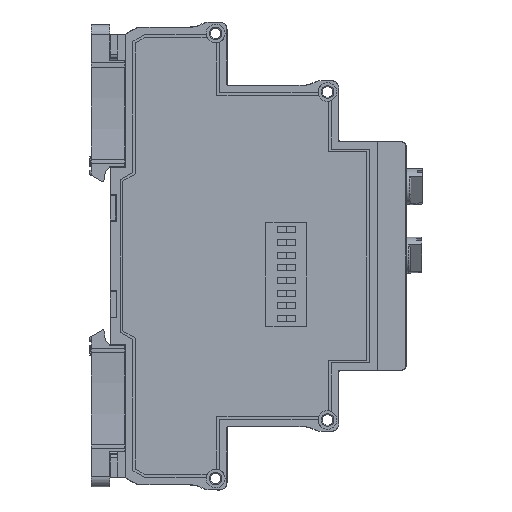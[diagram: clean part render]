
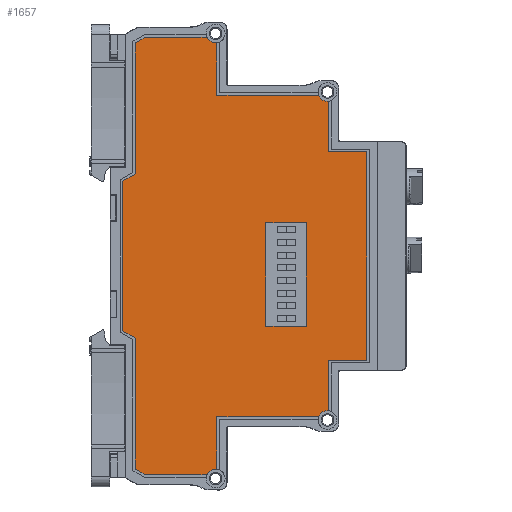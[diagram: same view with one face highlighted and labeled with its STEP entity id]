
A CAD part, front view. The second image highlights one B-rep face of the part: STEP entity #1657.
In plain terms, the highlighted planar face has unit normal (0, -1, 0) as drawn and (1, 0, 0) by its records, which use the part's own axes.
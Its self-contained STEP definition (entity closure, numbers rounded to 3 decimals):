
#1657=ADVANCED_FACE('',(#39468,#39470),#39472,.T.);
#39468=FACE_BOUND('',#39469,.T.);
#39469=EDGE_LOOP('',(#69655,#69656,#69657,#69658,#69659,#69660,#69661,#69662,#69663,
#69664,#69665,#69666,#69667,#69668,#69669,#69670,#69671,#69672,#69673,#69674,#69675,
#69676));
#39470=FACE_BOUND('',#39471,.T.);
#39471=EDGE_LOOP('',(#69677,#69678,#69679,#69680));
#39472=PLANE('',#39473);
#39473=AXIS2_PLACEMENT_3D('',#39474,#39475,#39476);
#39474=CARTESIAN_POINT('',(6.5,0.,0.));
#39475=DIRECTION('',(1.,0.,0.));
#39476=DIRECTION('',(0.,0.,-1.));
#69655=ORIENTED_EDGE('',*,*,#95039,.F.);
#69656=ORIENTED_EDGE('',*,*,#95040,.T.);
#69657=ORIENTED_EDGE('',*,*,#94957,.F.);
#69658=ORIENTED_EDGE('',*,*,#95041,.T.);
#69659=ORIENTED_EDGE('',*,*,#95042,.T.);
#69660=ORIENTED_EDGE('',*,*,#95043,.T.);
#69661=ORIENTED_EDGE('',*,*,#95044,.T.);
#69662=ORIENTED_EDGE('',*,*,#95045,.T.);
#69663=ORIENTED_EDGE('',*,*,#94941,.F.);
#69664=ORIENTED_EDGE('',*,*,#95046,.F.);
#69665=ORIENTED_EDGE('',*,*,#95047,.T.);
#69666=ORIENTED_EDGE('',*,*,#94951,.F.);
#69667=ORIENTED_EDGE('',*,*,#95048,.T.);
#69668=ORIENTED_EDGE('',*,*,#95049,.F.);
#69669=ORIENTED_EDGE('',*,*,#95050,.T.);
#69670=ORIENTED_EDGE('',*,*,#95051,.T.);
#69671=ORIENTED_EDGE('',*,*,#95052,.T.);
#69672=ORIENTED_EDGE('',*,*,#95053,.T.);
#69673=ORIENTED_EDGE('',*,*,#95054,.T.);
#69674=ORIENTED_EDGE('',*,*,#95055,.F.);
#69675=ORIENTED_EDGE('',*,*,#95056,.T.);
#69676=ORIENTED_EDGE('',*,*,#94967,.F.);
#69677=ORIENTED_EDGE('',*,*,#95057,.T.);
#69678=ORIENTED_EDGE('',*,*,#95058,.T.);
#69679=ORIENTED_EDGE('',*,*,#95059,.F.);
#69680=ORIENTED_EDGE('',*,*,#95060,.F.);
#94941=EDGE_CURVE('',#106868,#106853,#106870,.T.);
#94951=EDGE_CURVE('',#106888,#106873,#106890,.T.);
#94957=EDGE_CURVE('',#106900,#106902,#106903,.T.);
#94967=EDGE_CURVE('',#106920,#106922,#106923,.T.);
#95039=EDGE_CURVE('',#107061,#106920,#107062,.T.);
#95040=EDGE_CURVE('',#107061,#106902,#107063,.T.);
#95041=EDGE_CURVE('',#106900,#107064,#107065,.T.);
#95042=EDGE_CURVE('',#107064,#107066,#107067,.T.);
#95043=EDGE_CURVE('',#107066,#107068,#107069,.T.);
#95044=EDGE_CURVE('',#107068,#107070,#107071,.T.);
#95045=EDGE_CURVE('',#107070,#106853,#107072,.T.);
#95046=EDGE_CURVE('',#107073,#106868,#107074,.T.);
#95047=EDGE_CURVE('',#107073,#106873,#107075,.T.);
#95048=EDGE_CURVE('',#106888,#107076,#107077,.T.);
#95049=EDGE_CURVE('',#107078,#107076,#107079,.T.);
#95050=EDGE_CURVE('',#107078,#107080,#107081,.T.);
#95051=EDGE_CURVE('',#107080,#107082,#107083,.T.);
#95052=EDGE_CURVE('',#107082,#107084,#107085,.T.);
#95053=EDGE_CURVE('',#107084,#107086,#107087,.T.);
#95054=EDGE_CURVE('',#107086,#107088,#107089,.T.);
#95055=EDGE_CURVE('',#107090,#107088,#107091,.T.);
#95056=EDGE_CURVE('',#107090,#106922,#107092,.T.);
#95057=EDGE_CURVE('',#107093,#107094,#107095,.T.);
#95058=EDGE_CURVE('',#107094,#107096,#107097,.T.);
#95059=EDGE_CURVE('',#107098,#107096,#107099,.T.);
#95060=EDGE_CURVE('',#107093,#107098,#107100,.T.);
#106853=VERTEX_POINT('',#127256);
#106868=VERTEX_POINT('',#127289);
#106870=CIRCLE('',#127293,1.85);
#106873=VERTEX_POINT('',#127302);
#106888=VERTEX_POINT('',#127335);
#106890=CIRCLE('',#127339,1.85);
#106900=VERTEX_POINT('',#127363);
#106902=VERTEX_POINT('',#127367);
#106903=CIRCLE('',#127368,1.85);
#106920=VERTEX_POINT('',#127409);
#106922=VERTEX_POINT('',#127413);
#106923=CIRCLE('',#127414,1.85);
#107061=VERTEX_POINT('',#127718);
#107062=LINE('',#127719,#127720);
#107063=LINE('',#127722,#127723);
#107064=VERTEX_POINT('',#127725);
#107065=LINE('',#127726,#127727);
#107066=VERTEX_POINT('',#127729);
#107067=LINE('',#127730,#127731);
#107068=VERTEX_POINT('',#127733);
#107069=LINE('',#127734,#127735);
#107070=VERTEX_POINT('',#127737);
#107071=LINE('',#127738,#127739);
#107072=LINE('',#127741,#127742);
#107073=VERTEX_POINT('',#127744);
#107074=LINE('',#127745,#127746);
#107075=LINE('',#127748,#127749);
#107076=VERTEX_POINT('',#127751);
#107077=LINE('',#127752,#127753);
#107078=VERTEX_POINT('',#127755);
#107079=LINE('',#127756,#127757);
#107080=VERTEX_POINT('',#127759);
#107081=LINE('',#127760,#127761);
#107082=VERTEX_POINT('',#127763);
#107083=LINE('',#127764,#127765);
#107084=VERTEX_POINT('',#127767);
#107085=LINE('',#127768,#127769);
#107086=VERTEX_POINT('',#127771);
#107087=LINE('',#127772,#127773);
#107088=VERTEX_POINT('',#127775);
#107089=LINE('',#127776,#127777);
#107090=VERTEX_POINT('',#127779);
#107091=LINE('',#127780,#127781);
#107092=LINE('',#127783,#127784);
#107093=VERTEX_POINT('',#127786);
#107094=VERTEX_POINT('',#127787);
#107095=LINE('',#127788,#127789);
#107096=VERTEX_POINT('',#127791);
#107097=LINE('',#127792,#127793);
#107098=VERTEX_POINT('',#127795);
#107099=LINE('',#127796,#127797);
#107100=LINE('',#127799,#127800);
#127256=CARTESIAN_POINT('',(6.5,-30.541,38.985));
#127289=CARTESIAN_POINT('',(6.5,-31.7,37.015));
#127293=AXIS2_PLACEMENT_3D('',#127294,#127295,#127296);
#127294=CARTESIAN_POINT('',(6.5,-32.375,38.738));
#127295=DIRECTION('',(1.,0.,0.));
#127296=DIRECTION('',(0.,0.365,-0.931));
#127302=CARTESIAN_POINT('',(6.5,-42.103,16.897));
#127335=CARTESIAN_POINT('',(6.5,-43.2,14.953));
#127339=AXIS2_PLACEMENT_3D('',#127340,#127341,#127342);
#127340=CARTESIAN_POINT('',(6.5,-43.937,16.65));
#127341=DIRECTION('',(1.,0.,0.));
#127342=DIRECTION('',(0.,0.398,-0.917));
#127363=CARTESIAN_POINT('',(6.5,30.541,38.985));
#127367=CARTESIAN_POINT('',(6.5,31.7,37.015));
#127368=AXIS2_PLACEMENT_3D('',#127369,#127370,#127371);
#127369=CARTESIAN_POINT('',(6.5,32.375,38.738));
#127370=DIRECTION('',(1.,0.,0.));
#127371=DIRECTION('',(0.,-0.991,0.134));
#127409=CARTESIAN_POINT('',(6.5,42.103,16.897));
#127413=CARTESIAN_POINT('',(6.5,43.2,14.953));
#127414=AXIS2_PLACEMENT_3D('',#127415,#127416,#127417);
#127415=CARTESIAN_POINT('',(6.5,43.937,16.65));
#127416=DIRECTION('',(1.,0.,0.));
#127417=DIRECTION('',(0.,-0.991,0.134));
#127718=CARTESIAN_POINT('',(6.5,31.7,16.897));
#127719=CARTESIAN_POINT('',(6.5,31.7,16.897));
#127720=VECTOR('',#127721,1.);
#127721=DIRECTION('',(0.,1.,0.));
#127722=CARTESIAN_POINT('',(6.5,31.7,16.897));
#127723=VECTOR('',#127724,1.);
#127724=DIRECTION('',(0.,0.,1.));
#127725=CARTESIAN_POINT('',(6.5,20.6,38.985));
#127726=CARTESIAN_POINT('',(6.5,30.541,38.985));
#127727=VECTOR('',#127728,1.);
#127728=DIRECTION('',(0.,-1.,0.));
#127729=CARTESIAN_POINT('',(6.5,20.6,46.53));
#127730=CARTESIAN_POINT('',(6.5,20.6,38.985));
#127731=VECTOR('',#127732,1.);
#127732=DIRECTION('',(0.,0.,1.));
#127733=CARTESIAN_POINT('',(6.5,-20.6,46.53));
#127734=CARTESIAN_POINT('',(6.5,20.6,46.53));
#127735=VECTOR('',#127736,1.);
#127736=DIRECTION('',(0.,-1.,0.));
#127737=CARTESIAN_POINT('',(6.5,-20.6,38.985));
#127738=CARTESIAN_POINT('',(6.5,-20.6,46.53));
#127739=VECTOR('',#127740,1.);
#127740=DIRECTION('',(0.,0.,-1.));
#127741=CARTESIAN_POINT('',(6.5,-20.6,38.985));
#127742=VECTOR('',#127743,1.);
#127743=DIRECTION('',(0.,-1.,0.));
#127744=CARTESIAN_POINT('',(6.5,-31.7,16.897));
#127745=CARTESIAN_POINT('',(6.5,-31.7,16.897));
#127746=VECTOR('',#127747,1.);
#127747=DIRECTION('',(0.,0.,1.));
#127748=CARTESIAN_POINT('',(6.5,-31.7,16.897));
#127749=VECTOR('',#127750,1.);
#127750=DIRECTION('',(0.,-1.,0.));
#127751=CARTESIAN_POINT('',(6.5,-43.2,2.761));
#127752=CARTESIAN_POINT('',(6.5,-43.2,14.953));
#127753=VECTOR('',#127754,1.);
#127754=DIRECTION('',(0.,0.,-1.));
#127755=CARTESIAN_POINT('',(6.5,-42.068,0.8));
#127756=CARTESIAN_POINT('',(6.5,-42.068,0.8));
#127757=VECTOR('',#127758,1.);
#127758=DIRECTION('',(0.,-0.5,0.866));
#127759=CARTESIAN_POINT('',(6.5,-16.211,0.8));
#127760=CARTESIAN_POINT('',(6.5,-42.068,0.8));
#127761=VECTOR('',#127762,1.);
#127762=DIRECTION('',(0.,1.,0.));
#127763=CARTESIAN_POINT('',(6.5,-14.768,-1.7));
#127764=CARTESIAN_POINT('',(6.5,-16.211,0.8));
#127765=VECTOR('',#127766,1.);
#127766=DIRECTION('',(0.,0.5,-0.866));
#127767=CARTESIAN_POINT('',(6.5,14.768,-1.7));
#127768=CARTESIAN_POINT('',(6.5,-14.768,-1.7));
#127769=VECTOR('',#127770,1.);
#127770=DIRECTION('',(0.,1.,0.));
#127771=CARTESIAN_POINT('',(6.5,16.211,0.8));
#127772=CARTESIAN_POINT('',(6.5,14.768,-1.7));
#127773=VECTOR('',#127774,1.);
#127774=DIRECTION('',(0.,0.5,0.866));
#127775=CARTESIAN_POINT('',(6.5,42.068,0.8));
#127776=CARTESIAN_POINT('',(6.5,16.211,0.8));
#127777=VECTOR('',#127778,1.);
#127778=DIRECTION('',(0.,1.,0.));
#127779=CARTESIAN_POINT('',(6.5,43.2,2.761));
#127780=CARTESIAN_POINT('',(6.5,43.2,2.761));
#127781=VECTOR('',#127782,1.);
#127782=DIRECTION('',(0.,-0.5,-0.866));
#127783=CARTESIAN_POINT('',(6.5,43.2,2.761));
#127784=VECTOR('',#127785,1.);
#127785=DIRECTION('',(0.,0.,1.));
#127786=CARTESIAN_POINT('',(6.5,13.9,26.57));
#127787=CARTESIAN_POINT('',(6.5,-6.6,26.57));
#127788=CARTESIAN_POINT('',(6.5,13.9,26.57));
#127789=VECTOR('',#127790,1.);
#127790=DIRECTION('',(0.,-1.,0.));
#127791=CARTESIAN_POINT('',(6.5,-6.6,34.57));
#127792=CARTESIAN_POINT('',(6.5,-6.6,26.57));
#127793=VECTOR('',#127794,1.);
#127794=DIRECTION('',(0.,0.,1.));
#127795=CARTESIAN_POINT('',(6.5,13.9,34.57));
#127796=CARTESIAN_POINT('',(6.5,13.9,34.57));
#127797=VECTOR('',#127798,1.);
#127798=DIRECTION('',(0.,-1.,0.));
#127799=CARTESIAN_POINT('',(6.5,13.9,26.57));
#127800=VECTOR('',#127801,1.);
#127801=DIRECTION('',(0.,0.,1.));
